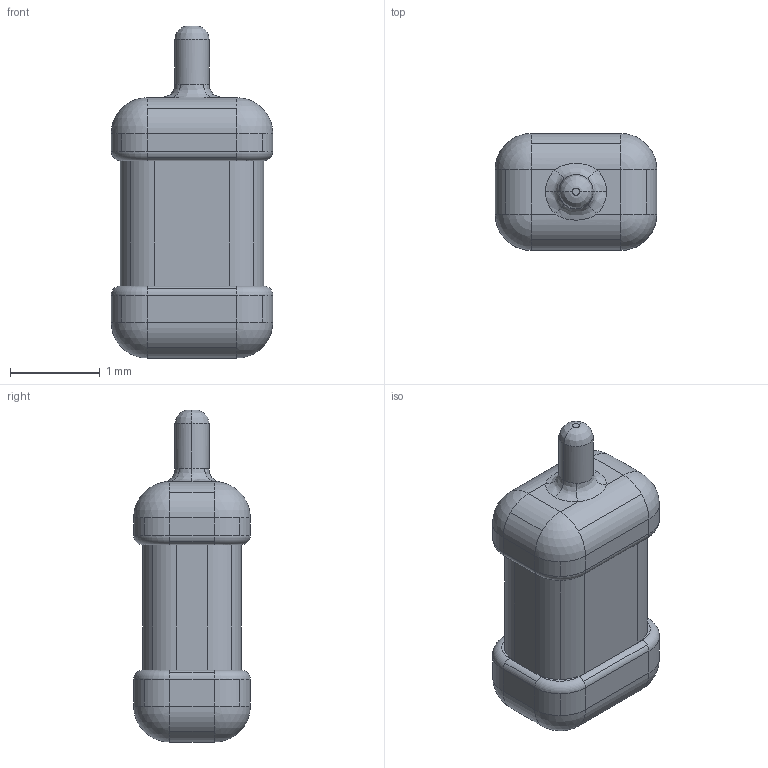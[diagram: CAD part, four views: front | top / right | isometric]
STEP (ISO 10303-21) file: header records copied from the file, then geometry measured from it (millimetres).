
FILE_DESCRIPTION((''),'2;1');
FILE_NAME('591D_A-case_13H.stp','2019-05-02T10:50:46',(''),(''),'AutoCAD STEP 2000i','AutoCAD 2000i',', , ');
FILE_SCHEMA(('CONFIG_CONTROL_DESIGN'));
Length unit declared in the file: millimetre
Products named in the file (2): 591D_A-CASE_13H; MODEL
Assembly tree (1 placements, depth 2):
  591D_A-CASE_13H
    MODEL
Bounding box: 1.8 x 1.3 x 3.7 mm (x, y, z)
Volume: 5.3 mm3; surface area: 18.7 mm2
Topology: 1 solids, 1 shells, 106 faces, 256 edges, 144 vertices
Faces by surface type: cylinder 58, plane 24, bspline 8, torus 8, sphere 8
Entity records: 3369 total; most frequent: CARTESIAN_POINT 778, DIRECTION 584, ORIENTED_EDGE 496, EDGE_CURVE 248, AXIS2_PLACEMENT_3D 240, VERTEX_POINT 144, CIRCLE 140, EDGE_LOOP 106
